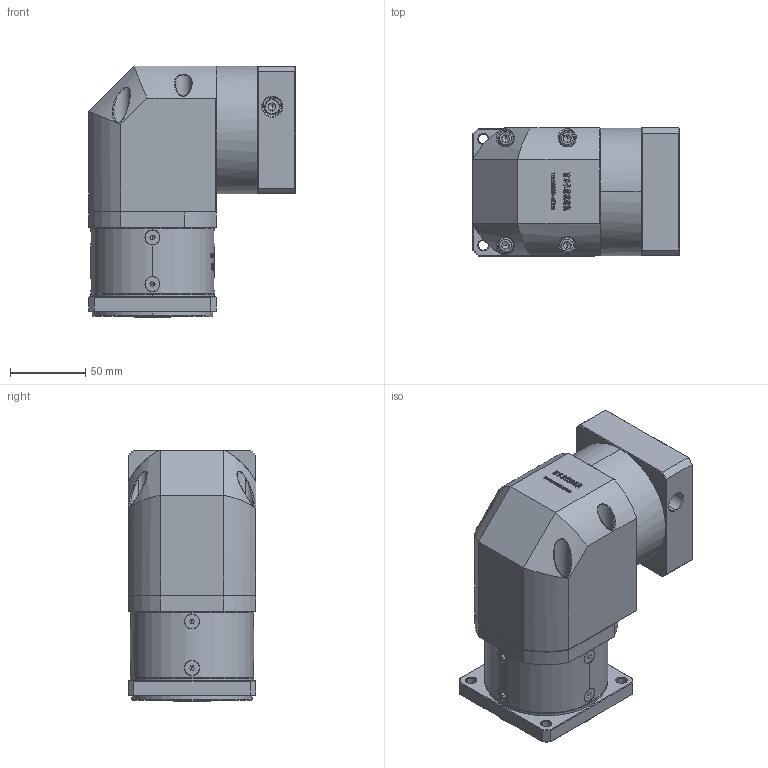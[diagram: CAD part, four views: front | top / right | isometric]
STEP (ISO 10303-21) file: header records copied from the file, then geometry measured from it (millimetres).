
FILE_DESCRIPTION (( 'STEP AP214' ), '1' );
FILE_NAME ('ZF80-K15-L1-16-80-100-M6.step', '2022-05-08T12:02:59', ( '' ), ( 'Microsoft' ), 'SwSTEP 2.0', 'SolidWorks 2016', '' );
FILE_SCHEMA (( 'AUTOMOTIVE_DESIGN' ));
Length unit declared in the file: millimetre
Products named in the file (1): ZF80-K15-L1-16-80-100-M6
Bounding box: 137.6 x 85 x 167.5 mm (x, y, z)
Volume: 1236780.7 mm3; surface area: 134194.9 mm2
Topology: 13 solids, 13 shells, 3010 faces, 7917 edges, 5056 vertices
Faces by surface type: plane 1610, bspline 614, cylinder 414, cone 358, torus 14
Entity records: 158847 total; most frequent: CARTESIAN_POINT 56943, ORIENTED_EDGE 15746, DIRECTION 11887, EDGE_CURVE 7873, VERTEX_POINT 5056, VECTOR 4925, LINE 4925, AXIS2_PLACEMENT_3D 3481
